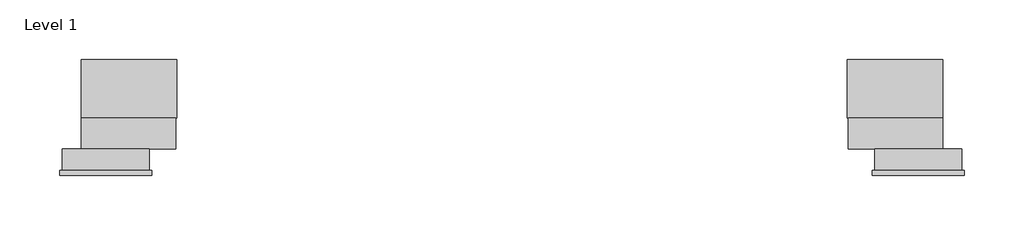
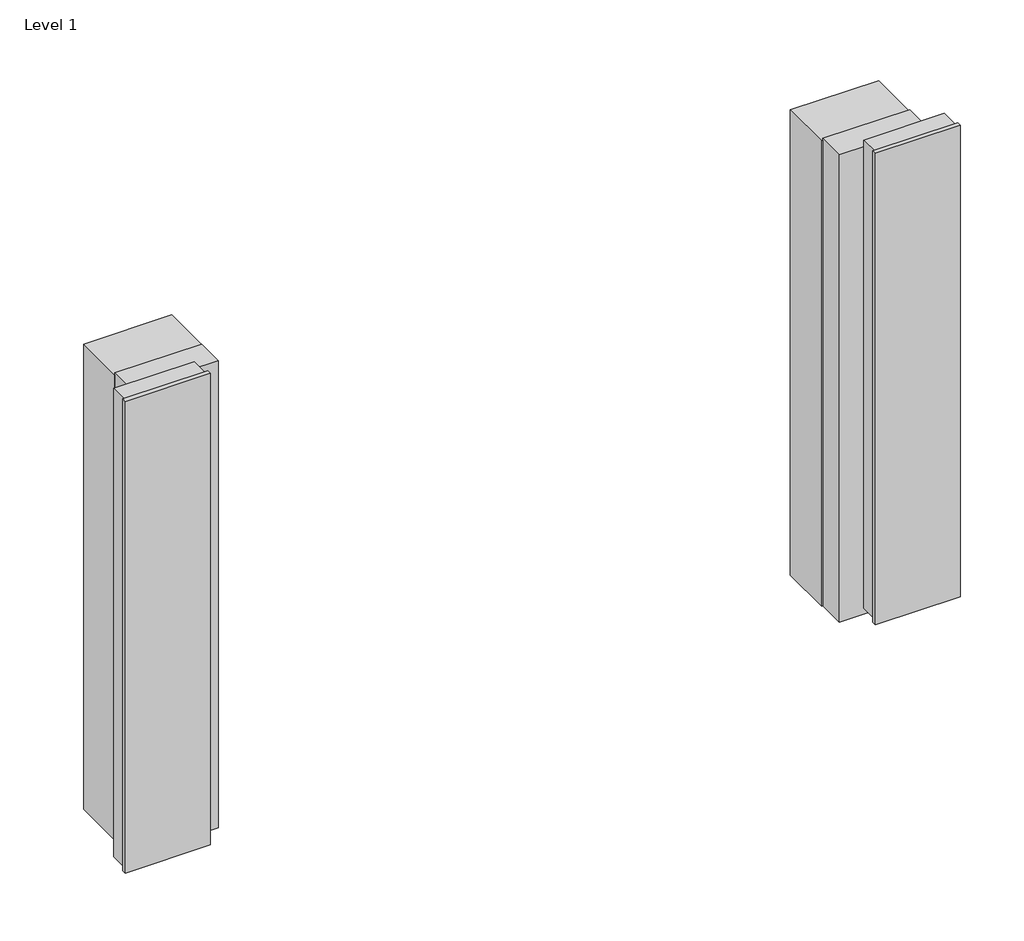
# One storey: 1 proxy.
"""IFC4 building model written with IfcOpenShell, lengths in millimetres."""

from ifc_helpers import new_model, si_unit, origin, place, context, project, spatial, transform, mapped, element, save
from components import specialty_equipment_e63359cc

model = new_model("IFC4")

# Units and contexts
model_context = context("Model", 3, world=origin())
ifc_project = project(units=[si_unit("LENGTHUNIT", "METRE", prefix="MILLI")], contexts=[model_context])

# Site, building, storey
site = spatial("IfcSite", under=ifc_project)
building = spatial("IfcBuilding", under=site)
storey = spatial("IfcBuildingStorey", under=building, Name="Level 1", Elevation=0.0)

# Proxy
placement = place(None, origin())
specialty_equipment_shape = specialty_equipment_e63359cc(model_context)
element("IfcBuildingElementProxy", 1, Name="11410800_USA_EBA7848_GRGR : 29992964_USA_11410800_EBA7848_GRGR", ObjectType="11410800_USA_EBA7848_GRGR : 29992964_USA_11410800_EBA7848_GRGR", at=placement, inside=storey, context=model_context, shape_type="MappedRepresentation", body=[
    mapped(specialty_equipment_shape, transform((0.0, 0.0, 0.0), x_axis=(1.0, 0.0, 0.0), y_axis=(0.0, 1.0, 0.0), z_axis=(0.0, 0.0, 1.0))),
])

save(model, "model.ifc")
